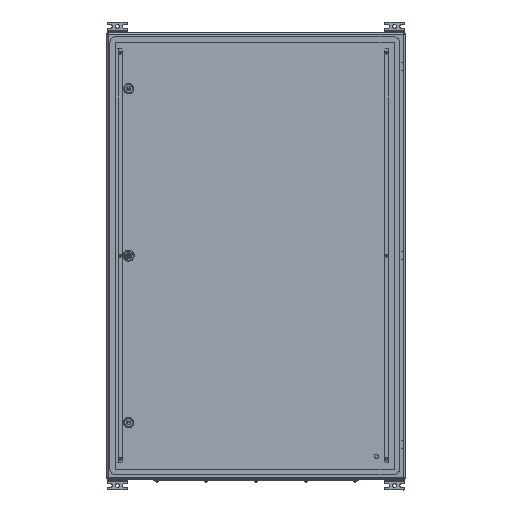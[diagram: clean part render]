
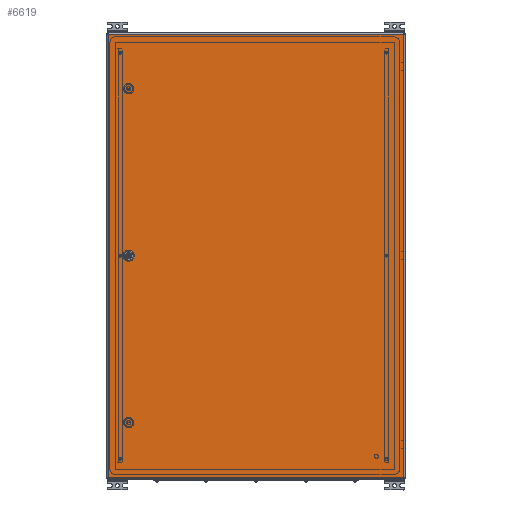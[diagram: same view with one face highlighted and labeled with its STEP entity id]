
A CAD part, top view. The second image highlights one B-rep face of the part: STEP entity #6619.
In plain terms, the highlighted planar face has unit normal (0, 0, 1).
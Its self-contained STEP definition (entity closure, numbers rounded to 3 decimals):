
#6619=ADVANCED_FACE('',(#15513,#15515),#15517,.T.);
#15513=FACE_BOUND('',#15514,.T.);
#15514=EDGE_LOOP('',(#41154,#41155,#41156,#41157));
#15515=FACE_BOUND('',#15516,.T.);
#15516=EDGE_LOOP('',(#41158,#41159,#41160,#41161,#41162,#41163,#41164,#41165));
#15517=PLANE('',#15518);
#15518=AXIS2_PLACEMENT_3D('',#15519,#15520,#15521);
#15519=CARTESIAN_POINT('',(0.,0.,1.5));
#15520=DIRECTION('',(0.,0.,1.));
#15521=DIRECTION('',(1.,0.,0.));
#41154=ORIENTED_EDGE('',*,*,#46165,.T.);
#41155=ORIENTED_EDGE('',*,*,#46166,.T.);
#41156=ORIENTED_EDGE('',*,*,#46094,.T.);
#41157=ORIENTED_EDGE('',*,*,#46167,.T.);
#41158=ORIENTED_EDGE('',*,*,#46168,.T.);
#41159=ORIENTED_EDGE('',*,*,#46169,.T.);
#41160=ORIENTED_EDGE('',*,*,#46170,.T.);
#41161=ORIENTED_EDGE('',*,*,#46171,.T.);
#41162=ORIENTED_EDGE('',*,*,#46172,.T.);
#41163=ORIENTED_EDGE('',*,*,#46173,.T.);
#41164=ORIENTED_EDGE('',*,*,#46174,.T.);
#41165=ORIENTED_EDGE('',*,*,#46175,.T.);
#46094=EDGE_CURVE('',#49941,#49939,#49942,.T.);
#46165=EDGE_CURVE('',#50066,#50067,#50068,.T.);
#46166=EDGE_CURVE('',#50067,#49941,#50069,.T.);
#46167=EDGE_CURVE('',#49939,#50066,#50070,.T.);
#46168=EDGE_CURVE('',#50071,#50072,#50073,.F.);
#46169=EDGE_CURVE('',#50072,#50074,#50075,.F.);
#46170=EDGE_CURVE('',#50074,#50076,#50077,.F.);
#46171=EDGE_CURVE('',#50076,#50078,#50079,.F.);
#46172=EDGE_CURVE('',#50078,#50080,#50081,.F.);
#46173=EDGE_CURVE('',#50080,#50082,#50083,.F.);
#46174=EDGE_CURVE('',#50082,#50084,#50085,.F.);
#46175=EDGE_CURVE('',#50084,#50071,#50086,.F.);
#49939=VERTEX_POINT('',#59335);
#49941=VERTEX_POINT('',#59340);
#49942=LINE('',#59341,#59342);
#50066=VERTEX_POINT('',#59630);
#50067=VERTEX_POINT('',#59631);
#50068=LINE('',#59632,#59633);
#50069=LINE('',#59635,#59636);
#50070=LINE('',#59638,#59639);
#50071=VERTEX_POINT('',#59641);
#50072=VERTEX_POINT('',#59642);
#50073=LINE('',#59643,#59644);
#50074=VERTEX_POINT('',#59646);
#50075=CIRCLE('',#59647,11.25);
#50076=VERTEX_POINT('',#59651);
#50077=LINE('',#59652,#59653);
#50078=VERTEX_POINT('',#59655);
#50079=CIRCLE('',#59656,11.25);
#50080=VERTEX_POINT('',#59660);
#50081=LINE('',#59661,#59662);
#50082=VERTEX_POINT('',#59664);
#50083=CIRCLE('',#59665,11.25);
#50084=VERTEX_POINT('',#59669);
#50085=LINE('',#59670,#59671);
#50086=CIRCLE('',#59673,11.25);
#59335=CARTESIAN_POINT('',(0.,0.,1.5));
#59340=CARTESIAN_POINT('',(0.,-792.,1.5));
#59341=CARTESIAN_POINT('',(0.,-792.,1.5));
#59342=VECTOR('',#59343,1.);
#59343=DIRECTION('',(0.,1.,0.));
#59630=CARTESIAN_POINT('',(-1189.,0.,1.5));
#59631=CARTESIAN_POINT('',(-1189.,-792.,1.5));
#59632=CARTESIAN_POINT('',(-1189.,0.,1.5));
#59633=VECTOR('',#59634,1.);
#59634=DIRECTION('',(0.,-1.,0.));
#59635=CARTESIAN_POINT('',(-1189.,-792.,1.5));
#59636=VECTOR('',#59637,1.);
#59637=DIRECTION('',(1.,0.,0.));
#59638=CARTESIAN_POINT('',(0.,0.,1.5));
#59639=VECTOR('',#59640,1.);
#59640=DIRECTION('',(-1.,0.,0.));
#59641=CARTESIAN_POINT('',(-589.545,-64.6,1.5));
#59642=CARTESIAN_POINT('',(-599.455,-64.6,1.5));
#59643=CARTESIAN_POINT('',(-599.455,-64.6,1.5));
#59644=VECTOR('',#59645,1.);
#59645=DIRECTION('',(1.,0.,0.));
#59646=CARTESIAN_POINT('',(-604.6,-59.455,1.5));
#59647=AXIS2_PLACEMENT_3D('',#59648,#59649,#59650);
#59648=CARTESIAN_POINT('',(-594.5,-54.5,1.5));
#59649=DIRECTION('',(0.,0.,1.));
#59650=DIRECTION('',(-0.898,-0.44,0.));
#59651=CARTESIAN_POINT('',(-604.6,-49.545,1.5));
#59652=CARTESIAN_POINT('',(-604.6,-49.545,1.5));
#59653=VECTOR('',#59654,1.);
#59654=DIRECTION('',(0.,-1.,0.));
#59655=CARTESIAN_POINT('',(-599.455,-44.4,1.5));
#59656=AXIS2_PLACEMENT_3D('',#59657,#59658,#59659);
#59657=CARTESIAN_POINT('',(-594.5,-54.5,1.5));
#59658=DIRECTION('',(0.,0.,1.));
#59659=DIRECTION('',(-0.44,0.898,0.));
#59660=CARTESIAN_POINT('',(-589.545,-44.4,1.5));
#59661=CARTESIAN_POINT('',(-589.545,-44.4,1.5));
#59662=VECTOR('',#59663,1.);
#59663=DIRECTION('',(-1.,0.,0.));
#59664=CARTESIAN_POINT('',(-584.4,-49.545,1.5));
#59665=AXIS2_PLACEMENT_3D('',#59666,#59667,#59668);
#59666=CARTESIAN_POINT('',(-594.5,-54.5,1.5));
#59667=DIRECTION('',(0.,0.,1.));
#59668=DIRECTION('',(0.898,0.44,0.));
#59669=CARTESIAN_POINT('',(-584.4,-59.455,1.5));
#59670=CARTESIAN_POINT('',(-584.4,-59.455,1.5));
#59671=VECTOR('',#59672,1.);
#59672=DIRECTION('',(0.,1.,0.));
#59673=AXIS2_PLACEMENT_3D('',#59674,#59675,#59676);
#59674=CARTESIAN_POINT('',(-594.5,-54.5,1.5));
#59675=DIRECTION('',(0.,0.,1.));
#59676=DIRECTION('',(0.44,-0.898,0.));
